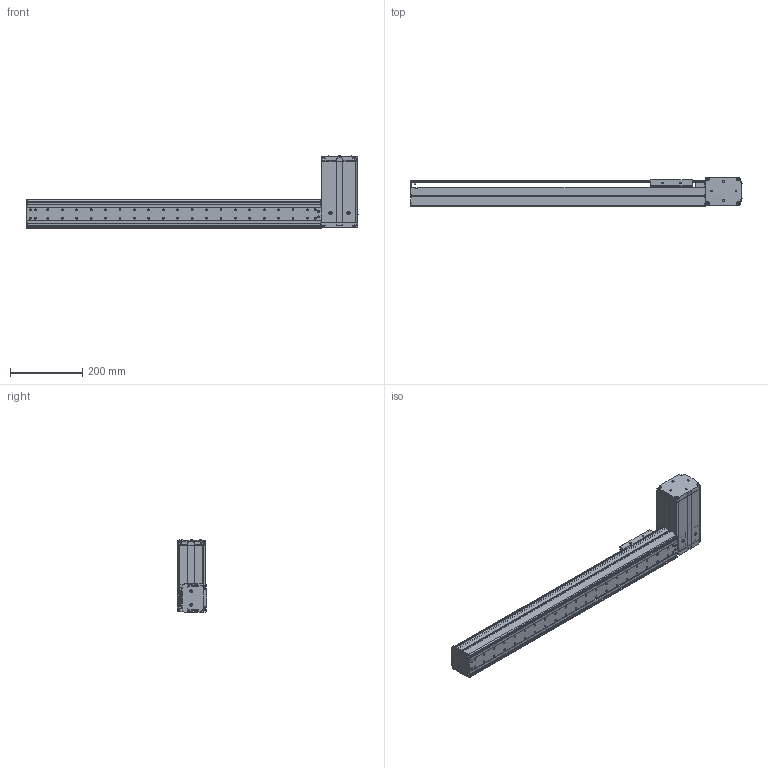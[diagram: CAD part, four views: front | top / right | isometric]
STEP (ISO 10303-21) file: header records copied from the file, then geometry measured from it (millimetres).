
FILE_DESCRIPTION((''),'2;1');
FILE_NAME('BE10_-BR-M_N-60_IGS_PRT','2017-06-18T',(' '),(''),'PRO/ENGINEER BY PARAMETRIC TECHNOLOGY CORPORATION, 2015030','PRO/ENGINEER BY PARAMETRIC TECHNOLOGY CORPORATION, 2015030','');
FILE_SCHEMA(('CONFIG_CONTROL_DESIGN'));
Products named in the file (1): BE10_-BR-M_N-60_IGS_PRT
Bounding box: 920.8 x 82.5 x 200.22 mm (x, y, z)
Volume: 1226005 mm3; surface area: 867360.5 mm2
Topology: 3 solids, 132 shells, 2056 faces, 5607 edges, 3685 vertices
Faces by surface type: plane 987, cylinder 898, cone 111, sphere 30, torus 27, bspline 3
Entity records: 66742 total; most frequent: CARTESIAN_POINT 13631, DIRECTION 11270, ORIENTED_EDGE 10650, EDGE_CURVE 5545, AXIS2_PLACEMENT_3D 4027, VERTEX_POINT 3685, VECTOR 3216, LINE 3216
